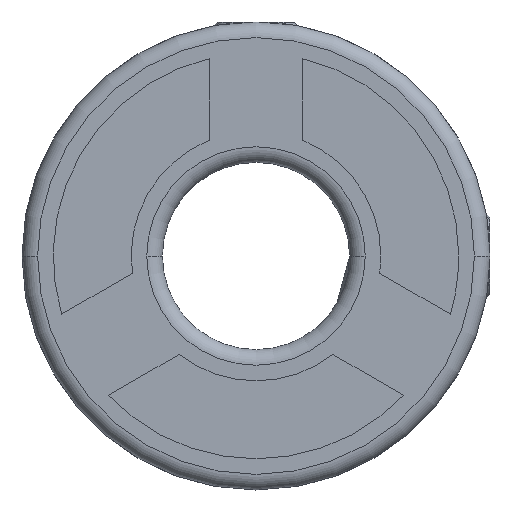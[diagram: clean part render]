
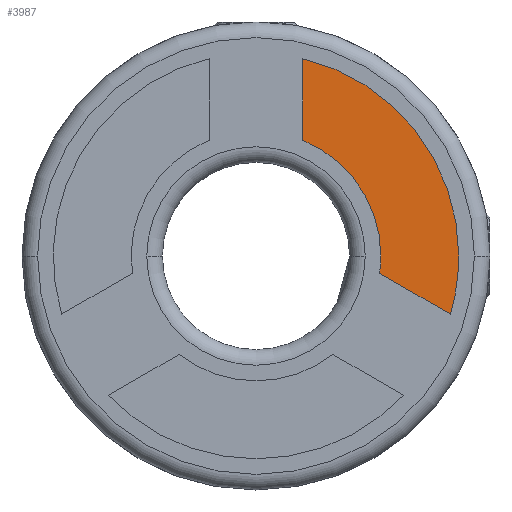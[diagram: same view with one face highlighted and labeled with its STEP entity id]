
A CAD part, front view. The second image highlights one B-rep face of the part: STEP entity #3987.
In plain terms, the highlighted planar face has unit normal (0, -1, 0).
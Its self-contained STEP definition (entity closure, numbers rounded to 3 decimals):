
#30 = VECTOR ( 'NONE', #5843, 1000. ) ;
#663 = CARTESIAN_POINT ( 'NONE',  ( 6.227, 0.4, -1.863 ) ) ;
#847 = EDGE_CURVE ( 'NONE', #5243, #3237, #1311, .T. ) ;
#868 = FACE_OUTER_BOUND ( 'NONE', #2486, .T. ) ;
#959 = LINE ( 'NONE', #6960, #30 ) ;
#1062 = EDGE_CURVE ( 'NONE', #6728, #5243, #2918, .T. ) ;
#1157 = AXIS2_PLACEMENT_3D ( 'NONE', #3673, #4707, #6828 ) ;
#1279 = CARTESIAN_POINT ( 'NONE',  ( 0., 0.4, 0. ) ) ;
#1311 = LINE ( 'NONE', #2971, #4851 ) ;
#1426 = CIRCLE ( 'NONE', #1157, 6.5 ) ;
#1753 = CARTESIAN_POINT ( 'NONE',  ( 1.5, 0.4, 6.325 ) ) ;
#1946 = CARTESIAN_POINT ( 'NONE',  ( 1.5, 0.4, 3.708 ) ) ;
#2015 = AXIS2_PLACEMENT_3D ( 'NONE', #2809, #2392, #4453 ) ;
#2053 = DIRECTION ( 'NONE',  ( 0., 1., 0. ) ) ;
#2115 = PLANE ( 'NONE',  #2015 ) ;
#2392 = DIRECTION ( 'NONE',  ( 0., 1., 0. ) ) ;
#2409 = ORIENTED_EDGE ( 'NONE', *, *, #2603, .T. ) ;
#2456 = AXIS2_PLACEMENT_3D ( 'NONE', #6376, #5341, #3160 ) ;
#2486 = EDGE_LOOP ( 'NONE', ( #3297, #3325, #2582, #5968, #2409, #6463 ) ) ;
#2582 = ORIENTED_EDGE ( 'NONE', *, *, #847, .T. ) ;
#2603 = EDGE_CURVE ( 'NONE', #6894, #4663, #5759, .T. ) ;
#2692 = DIRECTION ( 'NONE',  ( -1., 0., 0. ) ) ;
#2809 = CARTESIAN_POINT ( 'NONE',  ( 0., 0.4, 0. ) ) ;
#2843 = DIRECTION ( 'NONE',  ( 0., 1., 0. ) ) ;
#2918 = CIRCLE ( 'NONE', #3028, 4. ) ;
#2971 = CARTESIAN_POINT ( 'NONE',  ( 3.961, 0.4, -0.555 ) ) ;
#3028 = AXIS2_PLACEMENT_3D ( 'NONE', #5355, #2053, #2692 ) ;
#3086 = EDGE_CURVE ( 'NONE', #4663, #3768, #959, .T. ) ;
#3160 = DIRECTION ( 'NONE',  ( 1., 0., 0. ) ) ;
#3237 = VERTEX_POINT ( 'NONE', #663 ) ;
#3297 = ORIENTED_EDGE ( 'NONE', *, *, #4715, .T. ) ;
#3325 = ORIENTED_EDGE ( 'NONE', *, *, #1062, .T. ) ;
#3673 = CARTESIAN_POINT ( 'NONE',  ( 0., 0.4, 0. ) ) ;
#3768 = VERTEX_POINT ( 'NONE', #1946 ) ;
#3987 = ADVANCED_FACE ( 'NONE', ( #868 ), #2115, .F. ) ;
#4334 = AXIS2_PLACEMENT_3D ( 'NONE', #1279, #2843, #6081 ) ;
#4453 = DIRECTION ( 'NONE',  ( -1., 0., 0. ) ) ;
#4501 = EDGE_CURVE ( 'NONE', #3237, #6894, #1426, .T. ) ;
#4607 = DIRECTION ( 'NONE',  ( 0.866, 0., -0.5 ) ) ;
#4663 = VERTEX_POINT ( 'NONE', #1753 ) ;
#4707 = DIRECTION ( 'NONE',  ( 0., -1., 0. ) ) ;
#4715 = EDGE_CURVE ( 'NONE', #3768, #6728, #5227, .T. ) ;
#4851 = VECTOR ( 'NONE', #4607, 1000. ) ;
#5221 = CARTESIAN_POINT ( 'NONE',  ( 4., 0.4, 0. ) ) ;
#5227 = CIRCLE ( 'NONE', #4334, 4. ) ;
#5243 = VERTEX_POINT ( 'NONE', #6238 ) ;
#5341 = DIRECTION ( 'NONE',  ( 0., -1., 0. ) ) ;
#5355 = CARTESIAN_POINT ( 'NONE',  ( 0., 0.4, 0. ) ) ;
#5759 = CIRCLE ( 'NONE', #2456, 6.5 ) ;
#5843 = DIRECTION ( 'NONE',  ( 0., 0., -1. ) ) ;
#5968 = ORIENTED_EDGE ( 'NONE', *, *, #4501, .T. ) ;
#5971 = CARTESIAN_POINT ( 'NONE',  ( 6.5, 0.4, 0. ) ) ;
#6081 = DIRECTION ( 'NONE',  ( -1., 0., 0. ) ) ;
#6238 = CARTESIAN_POINT ( 'NONE',  ( 3.961, 0.4, -0.555 ) ) ;
#6376 = CARTESIAN_POINT ( 'NONE',  ( 0., 0.4, 0. ) ) ;
#6463 = ORIENTED_EDGE ( 'NONE', *, *, #3086, .T. ) ;
#6728 = VERTEX_POINT ( 'NONE', #5221 ) ;
#6828 = DIRECTION ( 'NONE',  ( 1., 0., 0. ) ) ;
#6894 = VERTEX_POINT ( 'NONE', #5971 ) ;
#6960 = CARTESIAN_POINT ( 'NONE',  ( 1.5, 0.4, 6.325 ) ) ;
